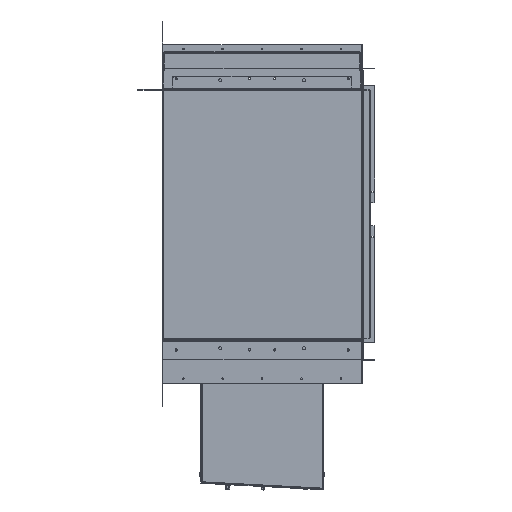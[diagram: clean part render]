
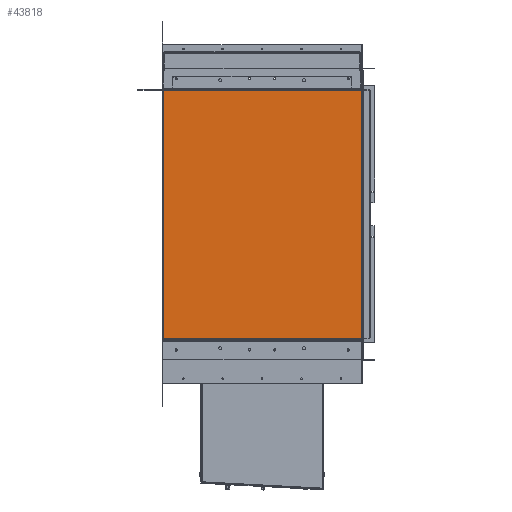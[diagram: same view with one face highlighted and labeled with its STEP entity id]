
A CAD part, left-side view. The second image highlights one B-rep face of the part: STEP entity #43818.
In plain terms, the highlighted planar face has unit normal (-1, 0, 0) as drawn and (0, 0, 1) by its records, which use the part's own axes.
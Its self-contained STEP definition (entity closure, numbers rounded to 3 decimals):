
#18 = ORIENTED_EDGE ( 'NONE', *, *, #124733, .F. ) ;
#916 = PLANE ( 'NONE',  #110084 ) ;
#9177 = DIRECTION ( 'NONE',  ( 0., 0., 1. ) ) ;
#11679 = EDGE_CURVE ( 'NONE', #109987, #106631, #21972, .T. ) ;
#19182 = ORIENTED_EDGE ( 'NONE', *, *, #37167, .F. ) ;
#19952 = CARTESIAN_POINT ( 'NONE',  ( 201., 252.293, 1. ) ) ;
#21972 = LINE ( 'NONE', #19952, #50231 ) ;
#24278 = DIRECTION ( 'NONE',  ( -1., 0., 0. ) ) ;
#26297 = CARTESIAN_POINT ( 'NONE',  ( 201.293, -252., 1. ) ) ;
#26978 = DIRECTION ( 'NONE',  ( 1., 0., 0. ) ) ;
#30981 = VERTEX_POINT ( 'NONE', #106308 ) ;
#37167 = EDGE_CURVE ( 'NONE', #99642, #30981, #63678, .T. ) ;
#39152 = ORIENTED_EDGE ( 'NONE', *, *, #66042, .F. ) ;
#39270 = CARTESIAN_POINT ( 'NONE',  ( -201.293, 252., 1. ) ) ;
#43818 = ADVANCED_FACE ( 'NONE', ( #115336 ), #916, .T. ) ;
#46470 = CARTESIAN_POINT ( 'NONE',  ( -201., -252., 1. ) ) ;
#50231 = VECTOR ( 'NONE', #62402, 1000. ) ;
#53258 = CARTESIAN_POINT ( 'NONE',  ( 201., 252., 1. ) ) ;
#53574 = CARTESIAN_POINT ( 'NONE',  ( 201., -252., 1. ) ) ;
#54050 = DIRECTION ( 'NONE',  ( 0., 1., 0. ) ) ;
#61875 = DIRECTION ( 'NONE',  ( 1., 0., 0. ) ) ;
#62402 = DIRECTION ( 'NONE',  ( 0., -1., 0. ) ) ;
#63678 = LINE ( 'NONE', #127425, #96512 ) ;
#66042 = EDGE_CURVE ( 'NONE', #30981, #109987, #79035, .T. ) ;
#71482 = CARTESIAN_POINT ( 'NONE',  ( 0., 0., 1. ) ) ;
#79035 = LINE ( 'NONE', #39270, #97906 ) ;
#82508 = ORIENTED_EDGE ( 'NONE', *, *, #11679, .F. ) ;
#96512 = VECTOR ( 'NONE', #54050, 1000. ) ;
#97906 = VECTOR ( 'NONE', #26978, 1000. ) ;
#99642 = VERTEX_POINT ( 'NONE', #46470 ) ;
#102317 = VECTOR ( 'NONE', #24278, 1000. ) ;
#106308 = CARTESIAN_POINT ( 'NONE',  ( -201., 252., 1. ) ) ;
#106631 = VERTEX_POINT ( 'NONE', #53574 ) ;
#109987 = VERTEX_POINT ( 'NONE', #53258 ) ;
#110084 = AXIS2_PLACEMENT_3D ( 'NONE', #71482, #9177, #61875 ) ;
#113778 = EDGE_LOOP ( 'NONE', ( #18, #82508, #39152, #19182 ) ) ;
#115336 = FACE_OUTER_BOUND ( 'NONE', #113778, .T. ) ;
#124733 = EDGE_CURVE ( 'NONE', #106631, #99642, #128453, .T. ) ;
#127425 = CARTESIAN_POINT ( 'NONE',  ( -201., -252.293, 1. ) ) ;
#128453 = LINE ( 'NONE', #26297, #102317 ) ;
